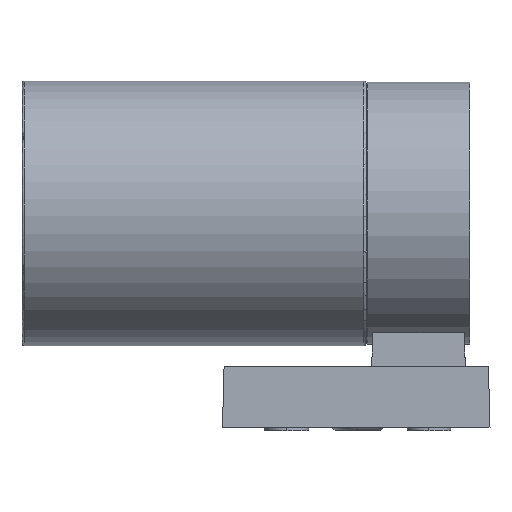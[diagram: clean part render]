
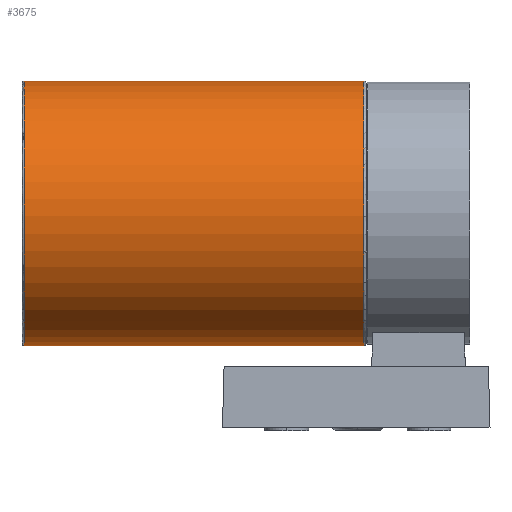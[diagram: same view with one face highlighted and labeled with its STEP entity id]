
A CAD part, left-side view. The second image highlights one B-rep face of the part: STEP entity #3675.
In plain terms, the highlighted cylindrical face has radius 60.499 mm (diameter 120.998 mm), a partial arc.
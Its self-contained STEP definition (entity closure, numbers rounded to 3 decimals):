
#91=B_SPLINE_CURVE_WITH_KNOTS('',3,(#5748,#5749,#5750,#5751,#5752,#5753,
#5754,#5755,#5756,#5757),.UNSPECIFIED.,.F.,.F.,(4,1,1,1,1,1,1,4),(0.,0.143,
0.286,0.429,0.571,0.714,
0.857,1.),.UNSPECIFIED.);
#98=B_SPLINE_CURVE_WITH_KNOTS('',3,(#5800,#5801,#5802,#5803,#5804,#5805,
#5806,#5807,#5808,#5809),.UNSPECIFIED.,.F.,.F.,(4,1,1,1,1,1,1,4),(0.,0.143,
0.286,0.429,0.571,0.714,
0.857,1.),.UNSPECIFIED.);
#201=CYLINDRICAL_SURFACE('',#3963,60.499);
#324=FACE_OUTER_BOUND('',#567,.T.);
#567=EDGE_LOOP('',(#2602,#2603,#2604,#2605));
#1002=LINE('',#5786,#1276);
#1003=LINE('',#5798,#1277);
#1276=VECTOR('',#4504,304.8);
#1277=VECTOR('',#4505,304.8);
#1568=VERTEX_POINT('',#5705);
#1570=VERTEX_POINT('',#5708);
#1580=VERTEX_POINT('',#5785);
#1581=VERTEX_POINT('',#5787);
#1956=EDGE_CURVE('',#1568,#1570,#91,.T.);
#1962=EDGE_CURVE('',#1580,#1568,#1002,.T.);
#1964=EDGE_CURVE('',#1570,#1581,#1003,.T.);
#1965=EDGE_CURVE('',#1580,#1581,#98,.T.);
#2602=ORIENTED_EDGE('',*,*,#1964,.T.);
#2603=ORIENTED_EDGE('',*,*,#1965,.F.);
#2604=ORIENTED_EDGE('',*,*,#1962,.T.);
#2605=ORIENTED_EDGE('',*,*,#1956,.T.);
#3675=ADVANCED_FACE('',(#324),#201,.T.);
#3963=AXIS2_PLACEMENT_3D('',#5799,#4506,#4507);
#4504=DIRECTION('',(0.,1.,0.));
#4505=DIRECTION('',(0.,-1.,0.));
#4506=DIRECTION('center_axis',(0.,-1.,0.));
#4507=DIRECTION('ref_axis',(0.,0.,1.));
#5705=CARTESIAN_POINT('',(0.,151.966,158.469));
#5708=CARTESIAN_POINT('',(0.,151.966,37.471));
#5748=CARTESIAN_POINT('Ctrl Pts',(0.,151.966,158.469));
#5749=CARTESIAN_POINT('Ctrl Pts',(-9.112,151.966,158.601));
#5750=CARTESIAN_POINT('Ctrl Pts',(-27.116,151.966,154.277));
#5751=CARTESIAN_POINT('Ctrl Pts',(-48.922,151.966,136.995));
#5752=CARTESIAN_POINT('Ctrl Pts',(-60.994,151.966,111.886));
#5753=CARTESIAN_POINT('Ctrl Pts',(-60.994,151.966,84.054));
#5754=CARTESIAN_POINT('Ctrl Pts',(-48.922,151.966,58.945));
#5755=CARTESIAN_POINT('Ctrl Pts',(-27.116,151.966,41.663));
#5756=CARTESIAN_POINT('Ctrl Pts',(-9.112,151.966,37.339));
#5757=CARTESIAN_POINT('Ctrl Pts',(0.,151.966,
37.471));
#5785=CARTESIAN_POINT('',(0.,-3.497,158.469));
#5786=CARTESIAN_POINT('',(0.,-3.497,158.469));
#5787=CARTESIAN_POINT('',(0.,-3.497,37.471));
#5798=CARTESIAN_POINT('',(0.,151.966,37.471));
#5799=CARTESIAN_POINT('Origin',(0.,1740.792,
97.97));
#5800=CARTESIAN_POINT('Ctrl Pts',(0.,-3.497,158.469));
#5801=CARTESIAN_POINT('Ctrl Pts',(-9.112,-3.497,158.601));
#5802=CARTESIAN_POINT('Ctrl Pts',(-27.116,-3.497,154.277));
#5803=CARTESIAN_POINT('Ctrl Pts',(-48.922,-3.497,136.995));
#5804=CARTESIAN_POINT('Ctrl Pts',(-60.994,-3.497,111.886));
#5805=CARTESIAN_POINT('Ctrl Pts',(-60.994,-3.497,84.054));
#5806=CARTESIAN_POINT('Ctrl Pts',(-48.922,-3.497,58.945));
#5807=CARTESIAN_POINT('Ctrl Pts',(-27.116,-3.497,41.663));
#5808=CARTESIAN_POINT('Ctrl Pts',(-9.112,-3.497,37.339));
#5809=CARTESIAN_POINT('Ctrl Pts',(0.,-3.497,
37.471));
